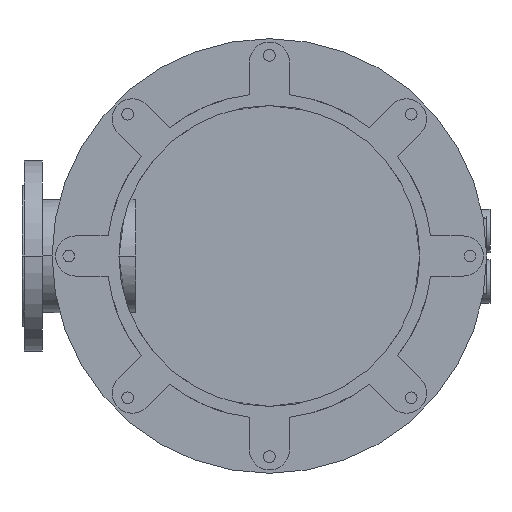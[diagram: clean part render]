
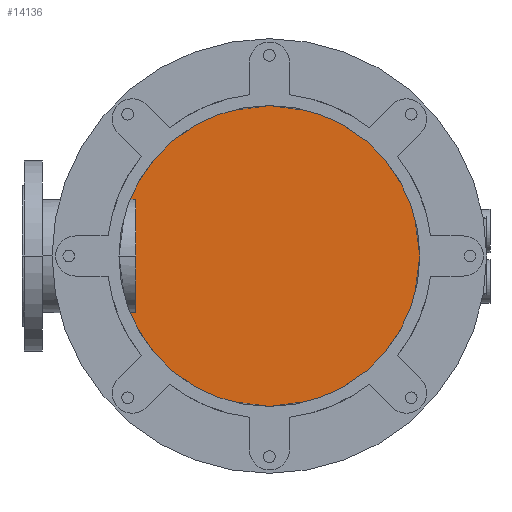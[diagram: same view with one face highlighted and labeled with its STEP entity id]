
A CAD part, front view. The second image highlights one B-rep face of the part: STEP entity #14136.
In plain terms, the highlighted planar face has unit normal (0, -1, 0).
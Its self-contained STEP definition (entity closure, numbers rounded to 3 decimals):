
#2793=CARTESIAN_POINT('',(0.,1172.,0.));
#2794=DIRECTION('',(0.,-1.,0.));
#2795=DIRECTION('',(0.,0.,1.));
#2796=AXIS2_PLACEMENT_3D('',#2793,#2794,#2795);
#2962=CARTESIAN_POINT('',(0.,1172.,0.));
#2963=DIRECTION('',(0.,-1.,0.));
#2964=DIRECTION('',(0.,0.,-1.));
#2965=AXIS2_PLACEMENT_3D('',#2962,#2963,#2964);
#9167=CARTESIAN_POINT('',(0.,1172.,240.));
#9168=CARTESIAN_POINT('',(0.,1172.,-240.));
#9169=VERTEX_POINT('',#9167);
#9170=VERTEX_POINT('',#9168);
#14126=CARTESIAN_POINT('',(0.,1172.,0.));
#14127=DIRECTION('',(0.,1.,0.));
#14128=DIRECTION('',(0.,0.,-1.));
#14129=AXIS2_PLACEMENT_3D('',#14126,#14127,#14128);
#14130=PLANE('',#14129);
#14131=ORIENTED_EDGE('',*,*,#14104,.F.);
#14133=ORIENTED_EDGE('',*,*,#14132,.F.);
#14134=EDGE_LOOP('',(#14131,#14133));
#14135=FACE_OUTER_BOUND('',#14134,.F.);
#14136=ADVANCED_FACE('',(#14135),#14130,.F.);
#2797=CIRCLE('',#2796,240.);
#2966=CIRCLE('',#2965,240.);
#14104=EDGE_CURVE('',#9169,#9170,#2797,.T.);
#14132=EDGE_CURVE('',#9170,#9169,#2966,.T.);
